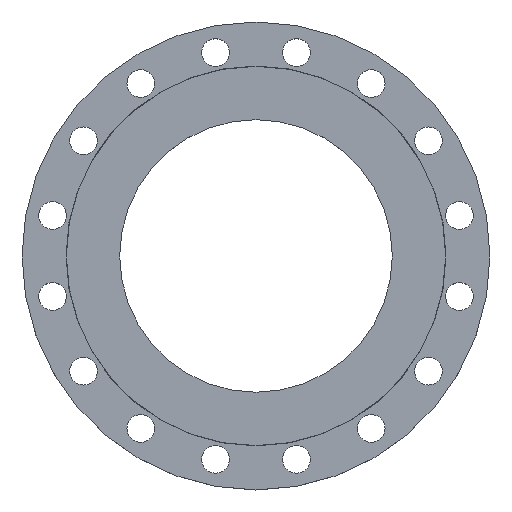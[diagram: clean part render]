
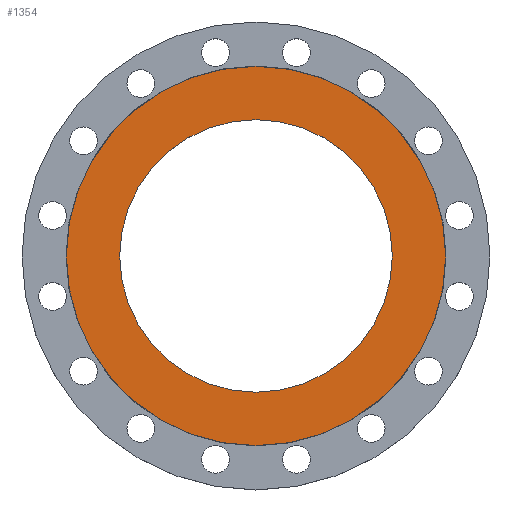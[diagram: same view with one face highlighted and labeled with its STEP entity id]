
A CAD part, top view. The second image highlights one B-rep face of the part: STEP entity #1354.
In plain terms, the highlighted planar face has unit normal (0, 0, 1).
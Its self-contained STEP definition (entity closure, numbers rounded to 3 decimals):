
#12 = CARTESIAN_POINT ( 'NONE',  ( -192.2, 0., 0. ) ) ;
#30 = CIRCLE ( 'NONE', #1074, 192.2 ) ;
#77 = DIRECTION ( 'NONE',  ( -1., 0., 0. ) ) ;
#79 = DIRECTION ( 'NONE',  ( 0., 0., -1. ) ) ;
#80 = CARTESIAN_POINT ( 'NONE',  ( 0., 0., 0. ) ) ;
#129 = DIRECTION ( 'NONE',  ( 1., 0., 0. ) ) ;
#131 = DIRECTION ( 'NONE',  ( 0., 0., 1. ) ) ;
#132 = CARTESIAN_POINT ( 'NONE',  ( 0., 0., 0. ) ) ;
#196 = CARTESIAN_POINT ( 'NONE',  ( -267.5, 0., 0. ) ) ;
#325 = CARTESIAN_POINT ( 'NONE',  ( 192.2, 0., 0. ) ) ;
#358 = CARTESIAN_POINT ( 'NONE',  ( 0., 0., 0. ) ) ;
#410 = VERTEX_POINT ( 'NONE', #325 ) ;
#414 = DIRECTION ( 'NONE',  ( -1., 0., 0. ) ) ;
#420 = AXIS2_PLACEMENT_3D ( 'NONE', #132, #131, #129 ) ;
#434 = CIRCLE ( 'NONE', #420, 192.2 ) ;
#451 = DIRECTION ( 'NONE',  ( 1., 0., 0. ) ) ;
#453 = EDGE_LOOP ( 'NONE', ( #846, #848 ) ) ;
#483 = AXIS2_PLACEMENT_3D ( 'NONE', #80, #79, #77 ) ;
#546 = CIRCLE ( 'NONE', #483, 267.5 ) ;
#563 = EDGE_LOOP ( 'NONE', ( #843, #845 ) ) ;
#591 = AXIS2_PLACEMENT_3D ( 'NONE', #358, #983, #1404 ) ;
#592 = VERTEX_POINT ( 'NONE', #196 ) ;
#640 = EDGE_CURVE ( 'NONE', #753, #410, #434, .T. ) ;
#688 = EDGE_CURVE ( 'NONE', #592, #1178, #546, .T. ) ;
#753 = VERTEX_POINT ( 'NONE', #12 ) ;
#843 = ORIENTED_EDGE ( 'NONE', *, *, #1471, .F. ) ;
#845 = ORIENTED_EDGE ( 'NONE', *, *, #640, .F. ) ;
#846 = ORIENTED_EDGE ( 'NONE', *, *, #688, .F. ) ;
#848 = ORIENTED_EDGE ( 'NONE', *, *, #1456, .F. ) ;
#983 = DIRECTION ( 'NONE',  ( 0., 0., 1. ) ) ;
#1061 = CIRCLE ( 'NONE', #1070, 267.5 ) ;
#1070 = AXIS2_PLACEMENT_3D ( 'NONE', #1095, #1475, #414 ) ;
#1074 = AXIS2_PLACEMENT_3D ( 'NONE', #1107, #1483, #451 ) ;
#1077 = FACE_OUTER_BOUND ( 'NONE', #453, .T. ) ;
#1095 = CARTESIAN_POINT ( 'NONE',  ( 0., 0., 0. ) ) ;
#1107 = CARTESIAN_POINT ( 'NONE',  ( 0., 0., 0. ) ) ;
#1114 = CARTESIAN_POINT ( 'NONE',  ( 267.5, 0., 0. ) ) ;
#1178 = VERTEX_POINT ( 'NONE', #1114 ) ;
#1354 = ADVANCED_FACE ( 'NONE', ( #1400, #1077 ), #1454, .T. ) ;
#1400 = FACE_BOUND ( 'NONE', #563, .T. ) ;
#1404 = DIRECTION ( 'NONE',  ( 1., 0., 0. ) ) ;
#1454 = PLANE ( 'NONE',  #591 ) ;
#1456 = EDGE_CURVE ( 'NONE', #1178, #592, #1061, .T. ) ;
#1471 = EDGE_CURVE ( 'NONE', #410, #753, #30, .T. ) ;
#1475 = DIRECTION ( 'NONE',  ( 0., 0., -1. ) ) ;
#1483 = DIRECTION ( 'NONE',  ( 0., 0., 1. ) ) ;
